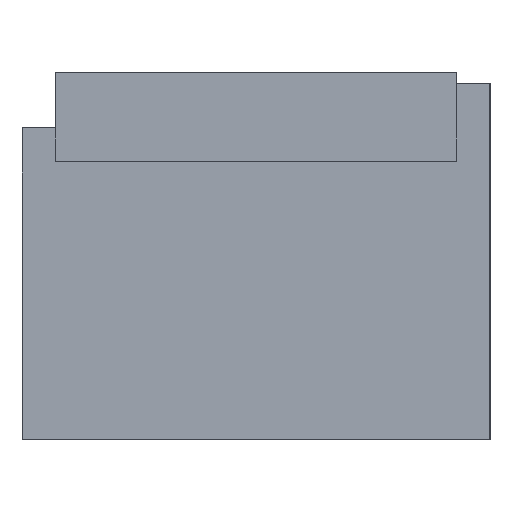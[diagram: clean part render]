
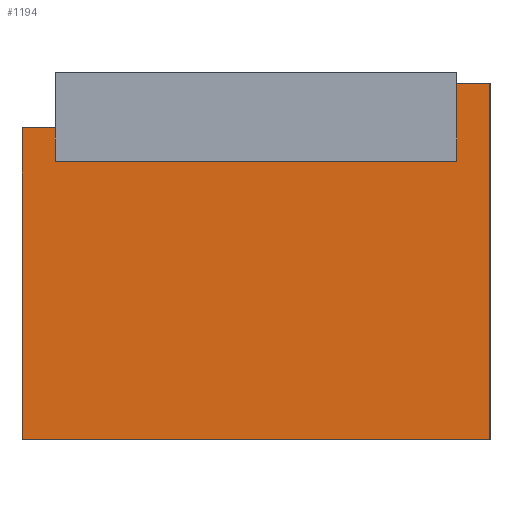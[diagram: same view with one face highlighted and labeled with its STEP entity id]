
A CAD part, left-side view. The second image highlights one B-rep face of the part: STEP entity #1194.
In plain terms, the highlighted planar face has unit normal (-1, 0, 0).
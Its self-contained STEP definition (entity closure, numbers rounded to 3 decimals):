
#62 = PLANE('',#63);
#63 = AXIS2_PLACEMENT_3D('',#64,#65,#66);
#64 = CARTESIAN_POINT('',(0.,0.,0.));
#65 = DIRECTION('',(-0.,1.,0.));
#66 = DIRECTION('',(0.,0.,1.));
#90 = PLANE('',#91);
#91 = AXIS2_PLACEMENT_3D('',#92,#93,#94);
#92 = CARTESIAN_POINT('',(0.,-3.,0.));
#93 = DIRECTION('',(0.,0.,1.));
#94 = DIRECTION('',(1.,0.,-0.));
#225 = PLANE('',#226);
#226 = AXIS2_PLACEMENT_3D('',#227,#228,#229);
#227 = CARTESIAN_POINT('',(0.,36.,0.));
#228 = DIRECTION('',(-0.,1.,0.));
#229 = DIRECTION('',(0.,0.,1.));
#323 = VERTEX_POINT('',#324);
#324 = CARTESIAN_POINT('',(0.,0.,0.));
#345 = EDGE_CURVE('',#323,#346,#348,.T.);
#346 = VERTEX_POINT('',#347);
#347 = CARTESIAN_POINT('',(0.,0.,7.));
#348 = SURFACE_CURVE('',#349,(#353,#360),.PCURVE_S1.);
#349 = LINE('',#350,#351);
#350 = CARTESIAN_POINT('',(0.,0.,0.));
#351 = VECTOR('',#352,1.);
#352 = DIRECTION('',(0.,0.,1.));
#353 = PCURVE('',#62,#354);
#354 = DEFINITIONAL_REPRESENTATION('',(#355),#359);
#355 = LINE('',#356,#357);
#356 = CARTESIAN_POINT('',(0.,0.));
#357 = VECTOR('',#358,1.);
#358 = DIRECTION('',(1.,0.));
#359 = ( GEOMETRIC_REPRESENTATION_CONTEXT(2) 
PARAMETRIC_REPRESENTATION_CONTEXT() REPRESENTATION_CONTEXT('2D SPACE',''
  ) );
#360 = PCURVE('',#361,#366);
#361 = PLANE('',#362);
#362 = AXIS2_PLACEMENT_3D('',#363,#364,#365);
#363 = CARTESIAN_POINT('',(0.,36.,0.));
#364 = DIRECTION('',(1.,0.,-0.));
#365 = DIRECTION('',(0.,0.,1.));
#366 = DEFINITIONAL_REPRESENTATION('',(#367),#371);
#367 = LINE('',#368,#369);
#368 = CARTESIAN_POINT('',(0.,36.));
#369 = VECTOR('',#370,1.);
#370 = DIRECTION('',(1.,0.));
#371 = ( GEOMETRIC_REPRESENTATION_CONTEXT(2) 
PARAMETRIC_REPRESENTATION_CONTEXT() REPRESENTATION_CONTEXT('2D SPACE',''
  ) );
#387 = PLANE('',#388);
#388 = AXIS2_PLACEMENT_3D('',#389,#390,#391);
#389 = CARTESIAN_POINT('',(0.,-3.,7.));
#390 = DIRECTION('',(0.,0.,1.));
#391 = DIRECTION('',(1.,0.,-0.));
#529 = VERTEX_POINT('',#530);
#530 = CARTESIAN_POINT('',(0.,36.,0.));
#551 = EDGE_CURVE('',#529,#552,#554,.T.);
#552 = VERTEX_POINT('',#553);
#553 = CARTESIAN_POINT('',(0.,36.,3.));
#554 = SURFACE_CURVE('',#555,(#559,#566),.PCURVE_S1.);
#555 = LINE('',#556,#557);
#556 = CARTESIAN_POINT('',(0.,36.,0.));
#557 = VECTOR('',#558,1.);
#558 = DIRECTION('',(0.,0.,1.));
#559 = PCURVE('',#225,#560);
#560 = DEFINITIONAL_REPRESENTATION('',(#561),#565);
#561 = LINE('',#562,#563);
#562 = CARTESIAN_POINT('',(0.,0.));
#563 = VECTOR('',#564,1.);
#564 = DIRECTION('',(1.,0.));
#565 = ( GEOMETRIC_REPRESENTATION_CONTEXT(2) 
PARAMETRIC_REPRESENTATION_CONTEXT() REPRESENTATION_CONTEXT('2D SPACE',''
  ) );
#566 = PCURVE('',#361,#567);
#567 = DEFINITIONAL_REPRESENTATION('',(#568),#572);
#568 = LINE('',#569,#570);
#569 = CARTESIAN_POINT('',(0.,0.));
#570 = VECTOR('',#571,1.);
#571 = DIRECTION('',(1.,0.));
#572 = ( GEOMETRIC_REPRESENTATION_CONTEXT(2) 
PARAMETRIC_REPRESENTATION_CONTEXT() REPRESENTATION_CONTEXT('2D SPACE',''
  ) );
#588 = PLANE('',#589);
#589 = AXIS2_PLACEMENT_3D('',#590,#591,#592);
#590 = CARTESIAN_POINT('',(0.,36.,3.));
#591 = DIRECTION('',(0.,0.,1.));
#592 = DIRECTION('',(1.,0.,-0.));
#653 = EDGE_CURVE('',#323,#529,#654,.T.);
#654 = SURFACE_CURVE('',#655,(#659,#666),.PCURVE_S1.);
#655 = LINE('',#656,#657);
#656 = CARTESIAN_POINT('',(0.,-3.,0.));
#657 = VECTOR('',#658,1.);
#658 = DIRECTION('',(-0.,1.,0.));
#659 = PCURVE('',#90,#660);
#660 = DEFINITIONAL_REPRESENTATION('',(#661),#665);
#661 = LINE('',#662,#663);
#662 = CARTESIAN_POINT('',(0.,0.));
#663 = VECTOR('',#664,1.);
#664 = DIRECTION('',(0.,1.));
#665 = ( GEOMETRIC_REPRESENTATION_CONTEXT(2) 
PARAMETRIC_REPRESENTATION_CONTEXT() REPRESENTATION_CONTEXT('2D SPACE',''
  ) );
#666 = PCURVE('',#361,#667);
#667 = DEFINITIONAL_REPRESENTATION('',(#668),#672);
#668 = LINE('',#669,#670);
#669 = CARTESIAN_POINT('',(0.,39.));
#670 = VECTOR('',#671,1.);
#671 = DIRECTION('',(0.,-1.));
#672 = ( GEOMETRIC_REPRESENTATION_CONTEXT(2) 
PARAMETRIC_REPRESENTATION_CONTEXT() REPRESENTATION_CONTEXT('2D SPACE',''
  ) );
#1121 = EDGE_CURVE('',#1122,#346,#1124,.T.);
#1122 = VERTEX_POINT('',#1123);
#1123 = CARTESIAN_POINT('',(0.,-3.,7.));
#1124 = SURFACE_CURVE('',#1125,(#1129,#1136),.PCURVE_S1.);
#1125 = LINE('',#1126,#1127);
#1126 = CARTESIAN_POINT('',(0.,-3.,7.));
#1127 = VECTOR('',#1128,1.);
#1128 = DIRECTION('',(-0.,1.,0.));
#1129 = PCURVE('',#387,#1130);
#1130 = DEFINITIONAL_REPRESENTATION('',(#1131),#1135);
#1131 = LINE('',#1132,#1133);
#1132 = CARTESIAN_POINT('',(0.,0.));
#1133 = VECTOR('',#1134,1.);
#1134 = DIRECTION('',(0.,1.));
#1135 = ( GEOMETRIC_REPRESENTATION_CONTEXT(2) 
PARAMETRIC_REPRESENTATION_CONTEXT() REPRESENTATION_CONTEXT('2D SPACE',''
  ) );
#1136 = PCURVE('',#361,#1137);
#1137 = DEFINITIONAL_REPRESENTATION('',(#1138),#1142);
#1138 = LINE('',#1139,#1140);
#1139 = CARTESIAN_POINT('',(7.,39.));
#1140 = VECTOR('',#1141,1.);
#1141 = DIRECTION('',(0.,-1.));
#1142 = ( GEOMETRIC_REPRESENTATION_CONTEXT(2) 
PARAMETRIC_REPRESENTATION_CONTEXT() REPRESENTATION_CONTEXT('2D SPACE',''
  ) );
#1160 = PLANE('',#1161);
#1161 = AXIS2_PLACEMENT_3D('',#1162,#1163,#1164);
#1162 = CARTESIAN_POINT('',(0.,-3.,0.));
#1163 = DIRECTION('',(-0.,1.,0.));
#1164 = DIRECTION('',(0.,0.,1.));
#1194 = ADVANCED_FACE('',(#1195),#361,.F.);
#1195 = FACE_BOUND('',#1196,.F.);
#1196 = EDGE_LOOP('',(#1197,#1198,#1199,#1200,#1201,#1224,#1252,#1280));
#1197 = ORIENTED_EDGE('',*,*,#551,.F.);
#1198 = ORIENTED_EDGE('',*,*,#653,.F.);
#1199 = ORIENTED_EDGE('',*,*,#345,.T.);
#1200 = ORIENTED_EDGE('',*,*,#1121,.F.);
#1201 = ORIENTED_EDGE('',*,*,#1202,.F.);
#1202 = EDGE_CURVE('',#1203,#1122,#1205,.T.);
#1203 = VERTEX_POINT('',#1204);
#1204 = CARTESIAN_POINT('',(0.,-3.,-25.));
#1205 = SURFACE_CURVE('',#1206,(#1210,#1217),.PCURVE_S1.);
#1206 = LINE('',#1207,#1208);
#1207 = CARTESIAN_POINT('',(0.,-3.,-25.));
#1208 = VECTOR('',#1209,1.);
#1209 = DIRECTION('',(0.,0.,1.));
#1210 = PCURVE('',#361,#1211);
#1211 = DEFINITIONAL_REPRESENTATION('',(#1212),#1216);
#1212 = LINE('',#1213,#1214);
#1213 = CARTESIAN_POINT('',(-25.,39.));
#1214 = VECTOR('',#1215,1.);
#1215 = DIRECTION('',(1.,0.));
#1216 = ( GEOMETRIC_REPRESENTATION_CONTEXT(2) 
PARAMETRIC_REPRESENTATION_CONTEXT() REPRESENTATION_CONTEXT('2D SPACE',''
  ) );
#1217 = PCURVE('',#1160,#1218);
#1218 = DEFINITIONAL_REPRESENTATION('',(#1219),#1223);
#1219 = LINE('',#1220,#1221);
#1220 = CARTESIAN_POINT('',(-25.,0.));
#1221 = VECTOR('',#1222,1.);
#1222 = DIRECTION('',(1.,0.));
#1223 = ( GEOMETRIC_REPRESENTATION_CONTEXT(2) 
PARAMETRIC_REPRESENTATION_CONTEXT() REPRESENTATION_CONTEXT('2D SPACE',''
  ) );
#1224 = ORIENTED_EDGE('',*,*,#1225,.T.);
#1225 = EDGE_CURVE('',#1203,#1226,#1228,.T.);
#1226 = VERTEX_POINT('',#1227);
#1227 = CARTESIAN_POINT('',(0.,39.,-25.));
#1228 = SURFACE_CURVE('',#1229,(#1233,#1240),.PCURVE_S1.);
#1229 = LINE('',#1230,#1231);
#1230 = CARTESIAN_POINT('',(0.,-3.,-25.));
#1231 = VECTOR('',#1232,1.);
#1232 = DIRECTION('',(-0.,1.,0.));
#1233 = PCURVE('',#361,#1234);
#1234 = DEFINITIONAL_REPRESENTATION('',(#1235),#1239);
#1235 = LINE('',#1236,#1237);
#1236 = CARTESIAN_POINT('',(-25.,39.));
#1237 = VECTOR('',#1238,1.);
#1238 = DIRECTION('',(0.,-1.));
#1239 = ( GEOMETRIC_REPRESENTATION_CONTEXT(2) 
PARAMETRIC_REPRESENTATION_CONTEXT() REPRESENTATION_CONTEXT('2D SPACE',''
  ) );
#1240 = PCURVE('',#1241,#1246);
#1241 = PLANE('',#1242);
#1242 = AXIS2_PLACEMENT_3D('',#1243,#1244,#1245);
#1243 = CARTESIAN_POINT('',(0.,-3.,-25.));
#1244 = DIRECTION('',(0.,0.,1.));
#1245 = DIRECTION('',(1.,0.,-0.));
#1246 = DEFINITIONAL_REPRESENTATION('',(#1247),#1251);
#1247 = LINE('',#1248,#1249);
#1248 = CARTESIAN_POINT('',(0.,0.));
#1249 = VECTOR('',#1250,1.);
#1250 = DIRECTION('',(0.,1.));
#1251 = ( GEOMETRIC_REPRESENTATION_CONTEXT(2) 
PARAMETRIC_REPRESENTATION_CONTEXT() REPRESENTATION_CONTEXT('2D SPACE',''
  ) );
#1252 = ORIENTED_EDGE('',*,*,#1253,.F.);
#1253 = EDGE_CURVE('',#1254,#1226,#1256,.T.);
#1254 = VERTEX_POINT('',#1255);
#1255 = CARTESIAN_POINT('',(0.,39.,3.));
#1256 = SURFACE_CURVE('',#1257,(#1261,#1268),.PCURVE_S1.);
#1257 = LINE('',#1258,#1259);
#1258 = CARTESIAN_POINT('',(0.,39.,3.));
#1259 = VECTOR('',#1260,1.);
#1260 = DIRECTION('',(0.,0.,-1.));
#1261 = PCURVE('',#361,#1262);
#1262 = DEFINITIONAL_REPRESENTATION('',(#1263),#1267);
#1263 = LINE('',#1264,#1265);
#1264 = CARTESIAN_POINT('',(3.,-3.));
#1265 = VECTOR('',#1266,1.);
#1266 = DIRECTION('',(-1.,0.));
#1267 = ( GEOMETRIC_REPRESENTATION_CONTEXT(2) 
PARAMETRIC_REPRESENTATION_CONTEXT() REPRESENTATION_CONTEXT('2D SPACE',''
  ) );
#1268 = PCURVE('',#1269,#1274);
#1269 = PLANE('',#1270);
#1270 = AXIS2_PLACEMENT_3D('',#1271,#1272,#1273);
#1271 = CARTESIAN_POINT('',(0.,39.,0.));
#1272 = DIRECTION('',(-0.,1.,0.));
#1273 = DIRECTION('',(0.,0.,1.));
#1274 = DEFINITIONAL_REPRESENTATION('',(#1275),#1279);
#1275 = LINE('',#1276,#1277);
#1276 = CARTESIAN_POINT('',(3.,0.));
#1277 = VECTOR('',#1278,1.);
#1278 = DIRECTION('',(-1.,0.));
#1279 = ( GEOMETRIC_REPRESENTATION_CONTEXT(2) 
PARAMETRIC_REPRESENTATION_CONTEXT() REPRESENTATION_CONTEXT('2D SPACE',''
  ) );
#1280 = ORIENTED_EDGE('',*,*,#1281,.F.);
#1281 = EDGE_CURVE('',#552,#1254,#1282,.T.);
#1282 = SURFACE_CURVE('',#1283,(#1287,#1294),.PCURVE_S1.);
#1283 = LINE('',#1284,#1285);
#1284 = CARTESIAN_POINT('',(0.,36.,3.));
#1285 = VECTOR('',#1286,1.);
#1286 = DIRECTION('',(-0.,1.,0.));
#1287 = PCURVE('',#361,#1288);
#1288 = DEFINITIONAL_REPRESENTATION('',(#1289),#1293);
#1289 = LINE('',#1290,#1291);
#1290 = CARTESIAN_POINT('',(3.,0.));
#1291 = VECTOR('',#1292,1.);
#1292 = DIRECTION('',(0.,-1.));
#1293 = ( GEOMETRIC_REPRESENTATION_CONTEXT(2) 
PARAMETRIC_REPRESENTATION_CONTEXT() REPRESENTATION_CONTEXT('2D SPACE',''
  ) );
#1294 = PCURVE('',#588,#1295);
#1295 = DEFINITIONAL_REPRESENTATION('',(#1296),#1300);
#1296 = LINE('',#1297,#1298);
#1297 = CARTESIAN_POINT('',(0.,0.));
#1298 = VECTOR('',#1299,1.);
#1299 = DIRECTION('',(0.,1.));
#1300 = ( GEOMETRIC_REPRESENTATION_CONTEXT(2) 
PARAMETRIC_REPRESENTATION_CONTEXT() REPRESENTATION_CONTEXT('2D SPACE',''
  ) );
